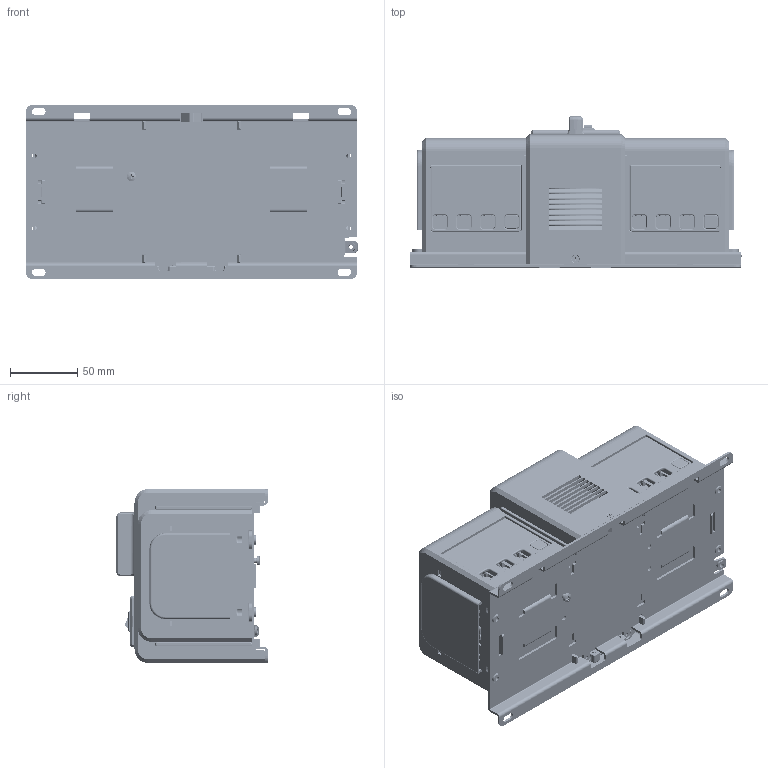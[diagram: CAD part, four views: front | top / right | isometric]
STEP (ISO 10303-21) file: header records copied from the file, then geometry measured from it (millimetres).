
FILE_DESCRIPTION((''),'2;1');
FILE_NAME('2597006100_CDQ3EHA-63A-3P-4P_ASM','2019-07-26T',('gang.sun'),(''),'PRO/ENGINEER BY PARAMETRIC TECHNOLOGY CORPORATION, 2015440','PRO/ENGINEER BY PARAMETRIC TECHNOLOGY CORPORATION, 2015440','');
FILE_SCHEMA(('CONFIG_CONTROL_DESIGN'));
Products named in the file (3): MSBR-2; MSBR-1; 2597006100_CDQ3EHA-63A-3P-4P_ASM
Assembly tree (2 placements, depth 2):
  2597006100_CDQ3EHA-63A-3P-4P_ASM
    MSBR-2
    MSBR-1
Bounding box: 247.68 x 112.8 x 130 mm (x, y, z)
Volume: 1774155.8 mm3; surface area: 364604.9 mm2
Topology: 4 solids, 15 shells, 7298 faces, 19359 edges, 12084 vertices
Faces by surface type: plane 3428, cylinder 2747, torus 529, sphere 294, bspline 198, cone 84, extrusion 18
Entity records: 238161 total; most frequent: CARTESIAN_POINT 54920, ORIENTED_EDGE 38718, DIRECTION 38636, EDGE_CURVE 19359, AXIS2_PLACEMENT_3D 13251, VECTOR 12134, LINE 12116, VERTEX_POINT 12084
